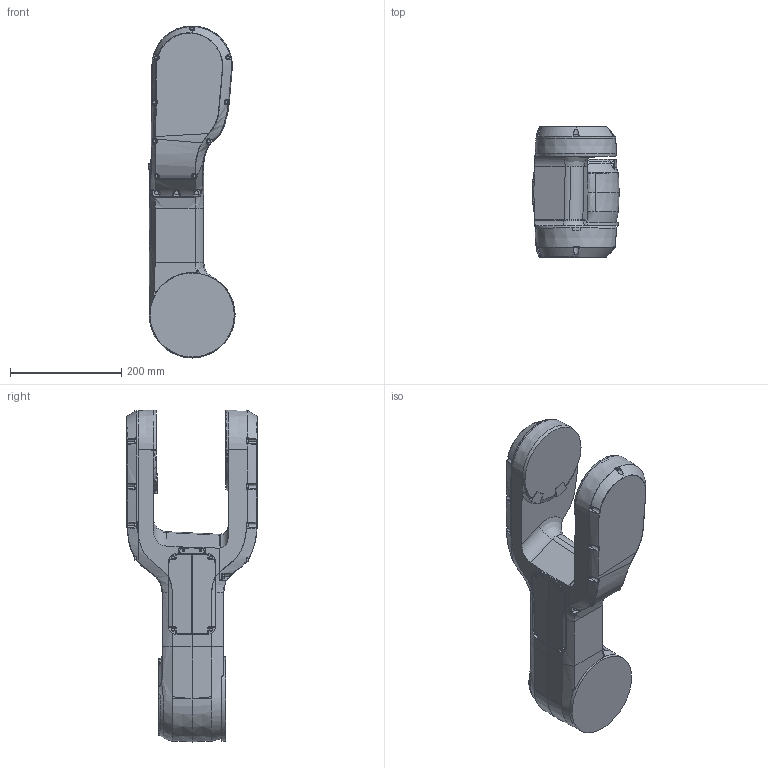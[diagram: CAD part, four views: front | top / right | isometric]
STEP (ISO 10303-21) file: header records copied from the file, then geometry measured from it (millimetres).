
FILE_DESCRIPTION (( 'STEP AP214' ), '1' );
FILE_NAME ('IRB1200H_5-90_IRC5_Link2_rev0.step', '2022-01-17T08:43:51', ( '' ), ( '' ), 'SwSTEP 2.0', 'SolidWorks 2020', '' );
FILE_SCHEMA (( 'AUTOMOTIVE_DESIGN' ));
Length unit declared in the file: millimetre
Products named in the file (1): IRB1200H_5-90_IRC5_Link2_rev0
Bounding box: 155.5 x 235 x 597.94 mm (x, y, z)
Volume: 7979051.6 mm3; surface area: 367596.2 mm2
Topology: 1 solids, 1 shells, 977 faces, 2406 edges, 1433 vertices
Faces by surface type: bspline 435, plane 229, cylinder 180, cone 63, torus 58, sphere 12
Entity records: 75464 total; most frequent: CARTESIAN_POINT 56099, ORIENTED_EDGE 4760, DIRECTION 3045, EDGE_CURVE 2380, VERTEX_POINT 1433, AXIS2_PLACEMENT_3D 1260, B_SPLINE_CURVE_WITH_KNOTS 1063, EDGE_LOOP 1005
